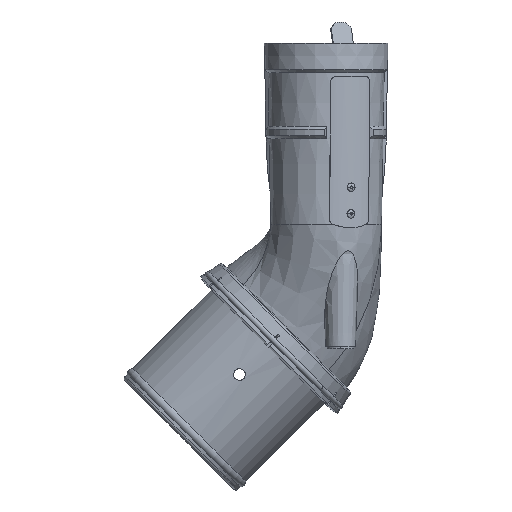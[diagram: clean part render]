
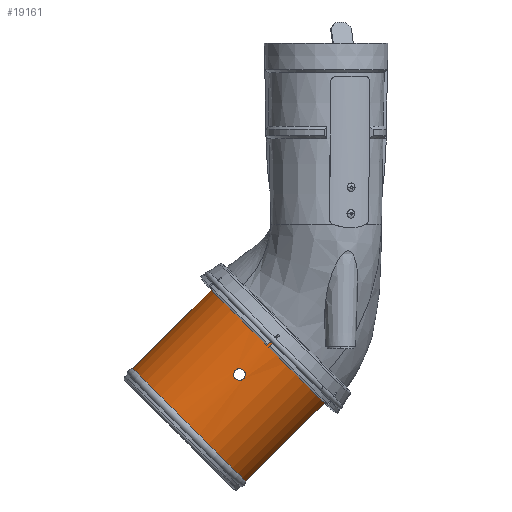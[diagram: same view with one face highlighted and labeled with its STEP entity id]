
A CAD part, left-side view. The second image highlights one B-rep face of the part: STEP entity #19161.
In plain terms, the highlighted cylindrical face has radius 75 mm (diameter 150 mm), a partial arc.
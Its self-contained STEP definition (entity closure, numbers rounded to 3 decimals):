
#16950=CARTESIAN_POINT('',(0.,121.859,0.));
#16951=DIRECTION('',(0.,-1.,0.));
#16952=DIRECTION('',(1.,0.,0.));
#16953=AXIS2_PLACEMENT_3D('',#16950,#16951,#16952);
#16960=DIRECTION('',(0.,1.,0.));
#16961=VECTOR('',#16960,110.834);
#16962=CARTESIAN_POINT('',(75.,11.025,0.));
#16963=LINE('',#16962,#16961);
#16964=CARTESIAN_POINT('',(0.,11.025,0.));
#16965=DIRECTION('',(0.,-1.,0.));
#16966=DIRECTION('',(1.,0.,0.));
#16967=AXIS2_PLACEMENT_3D('',#16964,#16965,#16966);
#16969=DIRECTION('',(0.,1.,0.));
#16970=VECTOR('',#16969,110.834);
#16971=CARTESIAN_POINT('',(-75.,11.025,0.));
#16972=LINE('',#16971,#16970);
#16973=CARTESIAN_POINT('',(-5.5,55.,74.798));
#16974=CARTESIAN_POINT('',(-5.5,55.29,74.798));
#16975=CARTESIAN_POINT('',(-5.455,55.861,
74.801));
#16976=CARTESIAN_POINT('',(-5.253,56.705,
74.816));
#16977=CARTESIAN_POINT('',(-4.922,57.505,
74.839));
#16978=CARTESIAN_POINT('',(-4.469,58.244,
74.867));
#16979=CARTESIAN_POINT('',(-3.907,58.904,
74.899));
#16980=CARTESIAN_POINT('',(-3.247,59.467,
74.931));
#16981=CARTESIAN_POINT('',(-2.508,59.921,
74.959));
#16982=CARTESIAN_POINT('',(-1.707,60.252,
74.982));
#16983=CARTESIAN_POINT('',(-0.864,60.455,
74.997));
#16984=CARTESIAN_POINT('',(0.,60.523,
75.002));
#16985=CARTESIAN_POINT('',(0.863,60.455,
74.997));
#16986=CARTESIAN_POINT('',(1.706,60.253,74.982));
#16987=CARTESIAN_POINT('',(2.507,59.921,74.959));
#16988=CARTESIAN_POINT('',(3.247,59.467,74.931));
#16989=CARTESIAN_POINT('',(3.906,58.904,74.899));
#16990=CARTESIAN_POINT('',(4.469,58.245,74.867));
#16991=CARTESIAN_POINT('',(4.921,57.506,74.839));
#16992=CARTESIAN_POINT('',(5.253,56.706,74.816));
#16993=CARTESIAN_POINT('',(5.455,55.862,74.801));
#16994=CARTESIAN_POINT('',(5.5,55.29,74.798));
#16995=CARTESIAN_POINT('',(5.5,55.,74.798));
#16997=CARTESIAN_POINT('',(5.5,55.,74.798));
#16998=CARTESIAN_POINT('',(5.5,54.71,74.798));
#16999=CARTESIAN_POINT('',(5.455,54.139,74.801));
#17000=CARTESIAN_POINT('',(5.253,53.295,74.816));
#17001=CARTESIAN_POINT('',(4.922,52.495,74.839));
#17002=CARTESIAN_POINT('',(4.469,51.756,74.867));
#17003=CARTESIAN_POINT('',(3.907,51.096,74.899));
#17004=CARTESIAN_POINT('',(3.247,50.533,74.931));
#17005=CARTESIAN_POINT('',(2.508,50.079,74.959));
#17006=CARTESIAN_POINT('',(1.707,49.748,74.982));
#17007=CARTESIAN_POINT('',(0.864,49.545,
74.997));
#17008=CARTESIAN_POINT('',(0.,49.477,
75.002));
#17009=CARTESIAN_POINT('',(-0.863,49.545,
74.997));
#17010=CARTESIAN_POINT('',(-1.706,49.747,
74.982));
#17011=CARTESIAN_POINT('',(-2.507,50.079,
74.959));
#17012=CARTESIAN_POINT('',(-3.247,50.533,
74.931));
#17013=CARTESIAN_POINT('',(-3.906,51.096,
74.899));
#17014=CARTESIAN_POINT('',(-4.469,51.755,
74.867));
#17015=CARTESIAN_POINT('',(-4.921,52.494,
74.839));
#17016=CARTESIAN_POINT('',(-5.253,53.294,
74.816));
#17017=CARTESIAN_POINT('',(-5.455,54.138,
74.801));
#17018=CARTESIAN_POINT('',(-5.5,54.71,74.798));
#17019=CARTESIAN_POINT('',(-5.5,55.,74.798));
#17406=CARTESIAN_POINT('',(75.,11.025,0.));
#17407=VERTEX_POINT('',#17406);
#17414=CARTESIAN_POINT('',(-75.,11.025,0.));
#17415=VERTEX_POINT('',#17414);
#17422=CARTESIAN_POINT('',(75.,121.859,0.));
#17424=VERTEX_POINT('',#17422);
#17430=CARTESIAN_POINT('',(-75.,121.859,0.));
#17432=VERTEX_POINT('',#17430);
#17455=CARTESIAN_POINT('',(5.5,55.,74.798));
#17457=VERTEX_POINT('',#17455);
#17463=CARTESIAN_POINT('',(-5.5,55.,74.798));
#17465=VERTEX_POINT('',#17463);
#19141=CARTESIAN_POINT('',(0.,0.,0.));
#19142=DIRECTION('',(0.,1.,0.));
#19143=DIRECTION('',(1.,0.,0.));
#19144=AXIS2_PLACEMENT_3D('',#19141,#19142,#19143);
#19145=CYLINDRICAL_SURFACE('',#19144,75.);
#19147=ORIENTED_EDGE('',*,*,#19146,.F.);
#19149=ORIENTED_EDGE('',*,*,#19148,.T.);
#19151=ORIENTED_EDGE('',*,*,#19150,.T.);
#19152=ORIENTED_EDGE('',*,*,#19134,.F.);
#19153=EDGE_LOOP('',(#19147,#19149,#19151,#19152));
#19154=FACE_OUTER_BOUND('',#19153,.F.);
#19156=ORIENTED_EDGE('',*,*,#19155,.F.);
#19158=ORIENTED_EDGE('',*,*,#19157,.F.);
#19159=EDGE_LOOP('',(#19156,#19158));
#19160=FACE_BOUND('',#19159,.F.);
#16954=CIRCLE('',#16953,75.);
#16968=CIRCLE('',#16967,75.);
#16996=B_SPLINE_CURVE_WITH_KNOTS('',3,(#16973,#16974,#16975,#16976,#16977,
#16978,#16979,#16980,#16981,#16982,#16983,#16984,#16985,#16986,#16987,#16988,
#16989,#16990,#16991,#16992,#16993,#16994,#16995),.UNSPECIFIED.,.F.,.F.,(4,1,1,
1,1,1,1,1,1,1,1,1,1,1,1,1,1,1,1,1,4),(0.,0.05,0.1,0.15,0.2,0.25,
0.3,0.35,0.4,0.45,0.5,0.55,0.6,0.65,0.7,0.75,0.8,0.85,
0.9,0.95,1.),.UNSPECIFIED.);
#17020=B_SPLINE_CURVE_WITH_KNOTS('',3,(#16997,#16998,#16999,#17000,#17001,
#17002,#17003,#17004,#17005,#17006,#17007,#17008,#17009,#17010,#17011,#17012,
#17013,#17014,#17015,#17016,#17017,#17018,#17019),.UNSPECIFIED.,.F.,.F.,(4,1,1,
1,1,1,1,1,1,1,1,1,1,1,1,1,1,1,1,1,4),(0.,0.05,0.1,0.15,0.2,0.25,
0.3,0.35,0.4,0.45,0.5,0.55,0.6,0.65,0.7,0.75,0.8,0.85,
0.9,0.95,1.),.UNSPECIFIED.);
#19134=EDGE_CURVE('',#17424,#17432,#16954,.T.);
#19146=EDGE_CURVE('',#17407,#17424,#16963,.T.);
#19148=EDGE_CURVE('',#17407,#17415,#16968,.T.);
#19150=EDGE_CURVE('',#17415,#17432,#16972,.T.);
#19155=EDGE_CURVE('',#17465,#17457,#16996,.T.);
#19157=EDGE_CURVE('',#17457,#17465,#17020,.T.);
#19161=ADVANCED_FACE('',(#19154,#19160),#19145,.T.);
